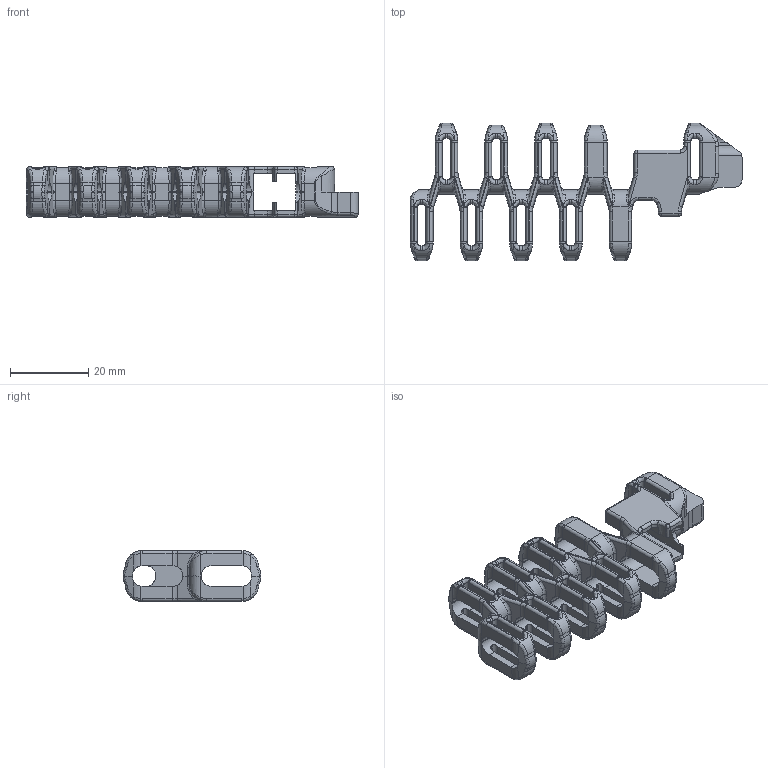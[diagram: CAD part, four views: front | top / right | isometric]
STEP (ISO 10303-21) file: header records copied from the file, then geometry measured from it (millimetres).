
FILE_DESCRIPTION((''),'2;1');
FILE_NAME('P665','2009-03-02T',('jbe'),(''),'PRO/ENGINEER BY PARAMETRIC TECHNOLOGY CORPORATION, 2008400','PRO/ENGINEER BY PARAMETRIC TECHNOLOGY CORPORATION, 2008400','');
FILE_SCHEMA(('CONFIG_CONTROL_DESIGN'));
Products named in the file (1): P665
Bounding box: 84.85 x 35.26 x 13 mm (x, y, z)
Volume: 9108.4 mm3; surface area: 9698.6 mm2
Topology: 1 solids, 1 shells, 1568 faces, 4114 edges, 2516 vertices
Faces by surface type: plane 605, cylinder 510, bspline 433, sphere 12, torus 8
Entity records: 70676 total; most frequent: CARTESIAN_POINT 36121, ORIENTED_EDGE 8228, DIRECTION 5727, EDGE_CURVE 4114, VERTEX_POINT 2516, VECTOR 2127, LINE 2127, AXIS2_PLACEMENT_3D 1800
